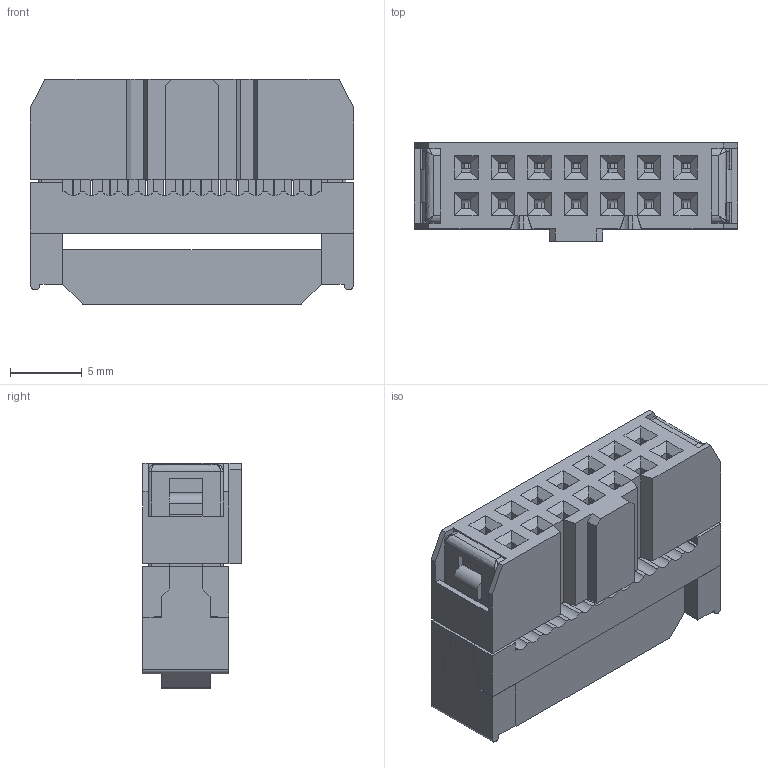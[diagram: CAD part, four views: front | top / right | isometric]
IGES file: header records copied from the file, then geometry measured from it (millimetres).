
Global section: file name: Filename.iges; native system: Open CASCADE 7.3; preprocessor: Open CASCADE IGES processor 7.3; date: 20201209.080523; units: millimetre
Bounding box: 22.46 x 6.86 x 15.7 mm (x, y, z)
Surface area: 3011.4 mm2 (no closed solid volume)
Topology: 0 solids, 0 shells, 975 faces, 5402 edges, 5394 vertices
Faces by surface type: plane 747, revolution 218, extrusion 6, bspline 4
